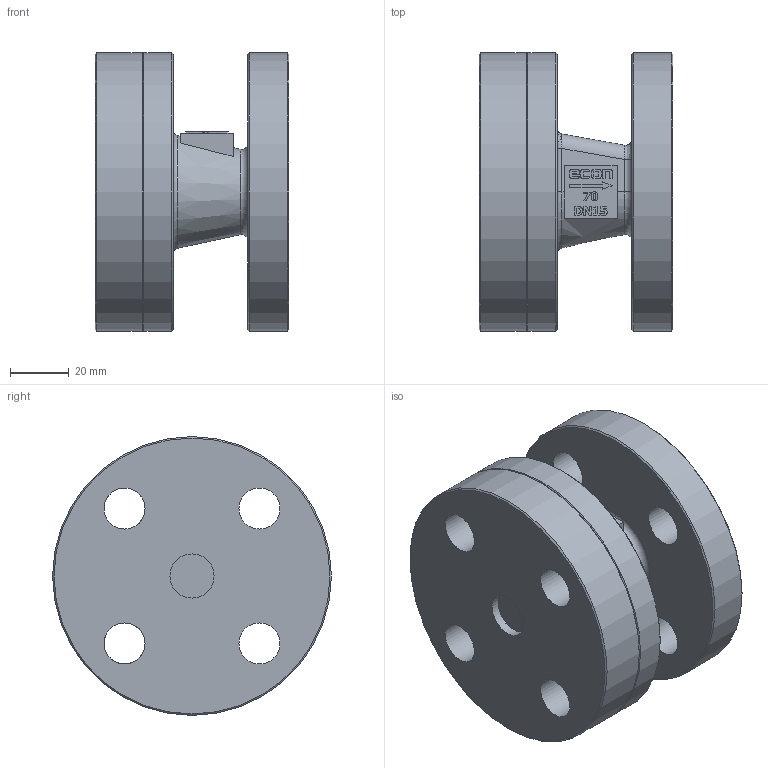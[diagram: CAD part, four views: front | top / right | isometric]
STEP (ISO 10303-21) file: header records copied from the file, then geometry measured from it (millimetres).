
FILE_DESCRIPTION(/* description */ ('Eriks item no: 12160575'),/* implementation_level */ '2;1');
FILE_NAME(/* name */ 'L:\DATA\ENG\Inventor\Econ 3D modellen\terugslagklep\70NGY\70NGY-DN15-PN16-NBR.stp',/* time_stamp */ '2023-12-05T08:16:12+01:00',/* author */ ('roger.thijssen'),/* organization */ (''),/* preprocessor_version */ 'ST-DEVELOPER v18',/* originating_system */ 'Autodesk Inventor 2020',/* authorisation */ '');
FILE_SCHEMA (('CONFIG_CONTROL_DESIGN'));
Length unit declared in the file: millimetre
Products named in the file (1): Check valve, 70NGY-DN15-PN16-NBR
Bounding box: 66 x 95 x 95 mm (x, y, z)
Volume: 289131.6 mm3; surface area: 46260.6 mm2
Topology: 1 solids, 1 shells, 195 faces, 520 edges, 344 vertices
Faces by surface type: plane 113, bspline 39, cylinder 34, cone 7, torus 2
Full cylindrical faces by diameter (mm): 14 x8, 15 x2, 95 x3
Entity records: 6607 total; most frequent: CARTESIAN_POINT 1795, ORIENTED_EDGE 1040, DIRECTION 859, EDGE_CURVE 520, LINE 349, VECTOR 349, VERTEX_POINT 344, AXIS2_PLACEMENT_3D 255
